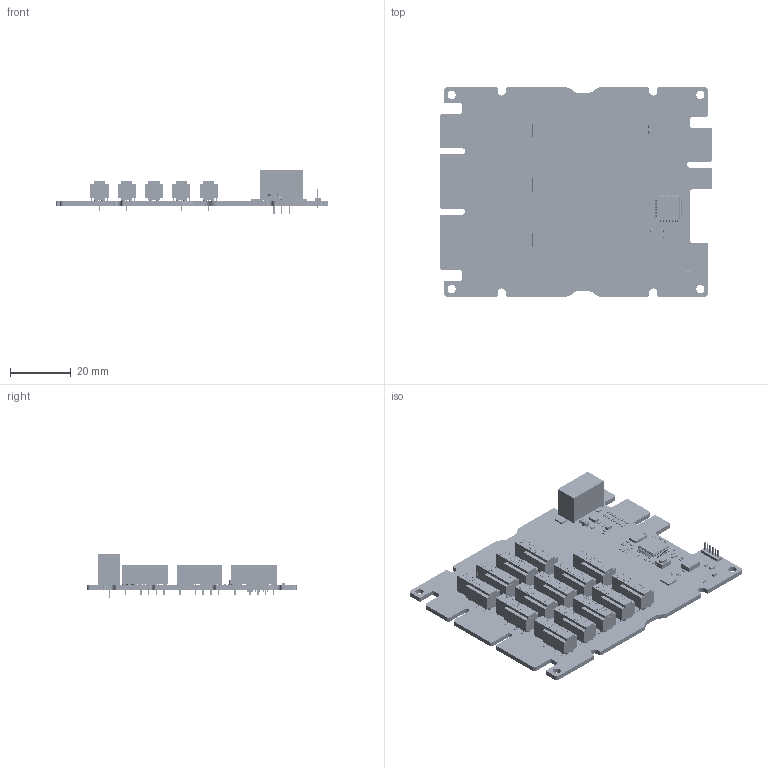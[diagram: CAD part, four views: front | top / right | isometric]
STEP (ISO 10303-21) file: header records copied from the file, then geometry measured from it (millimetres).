
FILE_DESCRIPTION(('Open CASCADE Model'),'2;1');
FILE_NAME('Open CASCADE Shape Model','2026-08-19T13:45:07',('Author'),( 'Open CASCADE'),'Open CASCADE STEP processor 7.5','Open CASCADE 7.5' ,'Unknown');
FILE_SCHEMA(('AUTOMOTIVE_DESIGN { 1 0 10303 214 1 1 1 1 }'));
Length unit declared in the file: millimetre
Products named in the file (309): Open CASCADE STEP translator 7.5 917; Open CASCADE STEP translator 7.5 918; Open CASCADE STEP translator 7.5 919; Open CASCADE STEP translator 7.5 920; Open CASCADE STEP translator 7.5 921; Open CASCADE STEP translator 7.5 922; Open CASCADE STEP translator 7.5 923; Open CASCADE STEP translator 7.5 924; Open CASCADE STEP translator 7.5 925; Open CASCADE STEP translator 7.5 926; Open CASCADE STEP translator 7.5 927; Open CASCADE STEP translator 7.5 928; Open CASCADE STEP translator 7.5 929; Open CASCADE STEP translator 7.5 930; Open CASCADE STEP translator 7.5 931; Open CASCADE STEP translator 7.5 932; Open CASCADE STEP translator 7.5 933; Open CASCADE STEP translator 7.5 934; Open CASCADE STEP translator 7.5 935; Open CASCADE STEP translator 7.5 936; Open CASCADE STEP translator 7.5 937; Open CASCADE STEP translator 7.5 938; Open CASCADE STEP translator 7.5 939; Open CASCADE STEP translator 7.5 940; Open CASCADE STEP translator 7.5 941; Open CASCADE STEP translator 7.5 942; Open CASCADE STEP translator 7.5 943; Open CASCADE STEP translator 7.5 944; Open CASCADE STEP translator 7.5 945; Open CASCADE STEP translator 7.5 946; Open CASCADE STEP translator 7.5 947; Open CASCADE STEP translator 7.5 948; Open CASCADE STEP translator 7.5 949; Open CASCADE STEP translator 7.5 950; Open CASCADE STEP translator 7.5 951; Open CASCADE STEP translator 7.5 952; Open CASCADE STEP translator 7.5 953; Open CASCADE STEP translator 7.5 954; Open CASCADE STEP translator 7.5 955; Open CASCADE STEP translator 7.5 956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
Bounding box: 90 x 69 x 14.2 mm (x, y, z)
Volume: 19107.5 mm3; surface area: 25089 mm2
Topology: 376 solids, 376 shells, 17844 faces, 46145 edges, 30718 vertices
Faces by surface type: plane 13192, extrusion 4088, cylinder 524, sphere 24, torus 8, bspline 4, cone 4
Full cylindrical faces by diameter (mm): 0.08 x1, 0.289 x1, 0.3 x6, 0.5 x3, 0.6 x6, 0.9 x70, 0.94 x3, 0.991 x14, 1.1 x56, 1.4 x1, 1.6 x2, 2.7 x4
Entity records: 815010 total; most frequent: CARTESIAN_POINT 284029, ORIENTED_EDGE 92290, DIRECTION 70534, EDGE_CURVE 46145, VECTOR 40916, LINE 36828, VERTEX_POINT 30718, FACE_BOUND 19675
